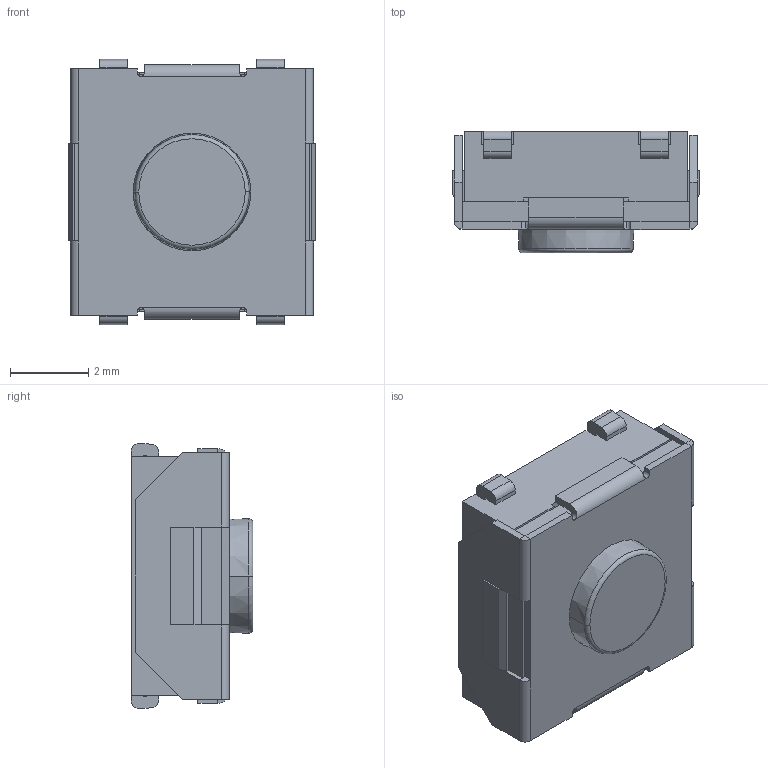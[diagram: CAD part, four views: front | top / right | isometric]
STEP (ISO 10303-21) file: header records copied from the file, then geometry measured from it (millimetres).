
FILE_DESCRIPTION((''),'2;1');
FILE_NAME('JQA6262P-C0254-01G-1-104_ASM','2026-05-23T12:16:48',('Admin'),(''),'CREO PARAMETRIC BY PTC INC, 2019224','CREO PARAMETRIC BY PTC INC, 2019224','');
FILE_SCHEMA(('AUTOMOTIVE_DESIGN { 1 0 10303 214 1 1 1 1 }'));
Length unit declared in the file: millimetre
Products named in the file (3): JQA6262P-C0254-01G-1-104_10; JQA6262P-C0254-01G-1-104_08; JQA6262P-C0254-01G-1-104_ASM
Assembly tree (2 placements, depth 2):
  JQA6262P-C0254-01G-1-104_ASM
    JQA6262P-C0254-01G-1-104_10
    JQA6262P-C0254-01G-1-104_08
Bounding box: 6.3 x 3.1 x 6.77 mm (x, y, z)
Volume: 97.1 mm3; surface area: 282 mm2
Topology: 2 solids, 2 shells, 179 faces, 462 edges, 290 vertices
Faces by surface type: plane 147, cylinder 24, bspline 4, cone 2, torus 2
Entity records: 7188 total; most frequent: CARTESIAN_POINT 1241, ORIENTED_EDGE 920, DIRECTION 882, EDGE_CURVE 460, VECTOR 398, LINE 398, PRESENTATION_STYLE_ASSIGNMENT 338, STYLED_ITEM 292
